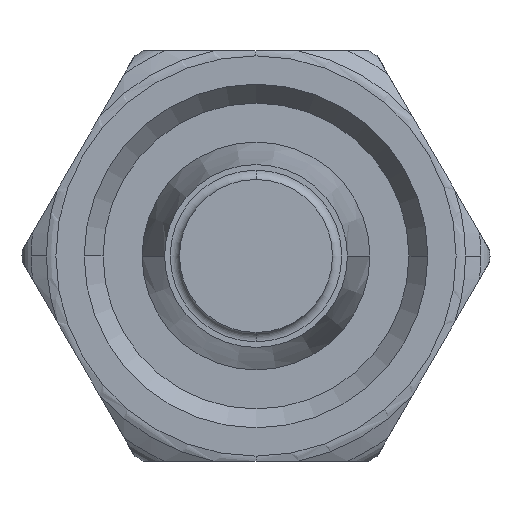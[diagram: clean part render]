
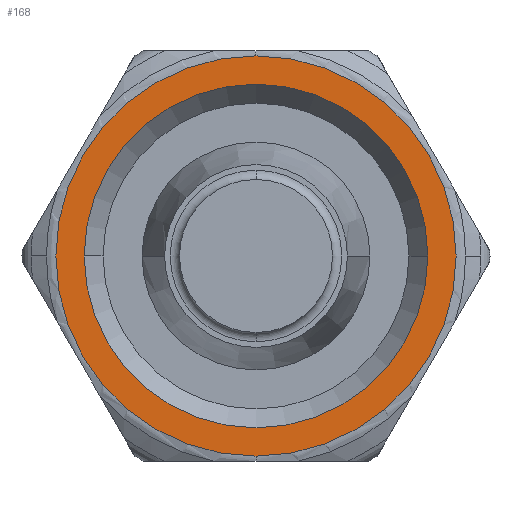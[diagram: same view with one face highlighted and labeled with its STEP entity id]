
A CAD part, front view. The second image highlights one B-rep face of the part: STEP entity #168.
In plain terms, the highlighted planar face has unit normal (0, -1, 0).
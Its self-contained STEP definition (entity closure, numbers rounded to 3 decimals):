
#168 = ADVANCED_FACE( '', ( #388, #389 ), #390, .T. );
#388 = FACE_OUTER_BOUND( '', #646, .T. );
#389 = FACE_BOUND( '', #647, .T. );
#390 = PLANE( '', #648 );
#646 = EDGE_LOOP( '', ( #1484, #1485, #1486 ) );
#647 = EDGE_LOOP( '', ( #1487, #1488 ) );
#648 = AXIS2_PLACEMENT_3D( '', #1489, #1490, #1491 );
#1484 = ORIENTED_EDGE( '', *, *, #1836, .F. );
#1485 = ORIENTED_EDGE( '', *, *, #1835, .F. );
#1486 = ORIENTED_EDGE( '', *, *, #2009, .F. );
#1487 = ORIENTED_EDGE( '', *, *, #2018, .T. );
#1488 = ORIENTED_EDGE( '', *, *, #1815, .T. );
#1489 = CARTESIAN_POINT( '', ( 9.974, 43.3, 0. ) );
#1490 = DIRECTION( '', ( 0., -1., 0. ) );
#1491 = DIRECTION( '', ( -1., 0., 0. ) );
#1815 = EDGE_CURVE( '', #2212, #2209, #2213, .T. );
#1835 = EDGE_CURVE( '', #2247, #2250, #2251, .T. );
#1836 = EDGE_CURVE( '', #2250, #2252, #2253, .T. );
#2009 = EDGE_CURVE( '', #2252, #2247, #2534, .T. );
#2018 = EDGE_CURVE( '', #2209, #2212, #2544, .T. );
#2209 = VERTEX_POINT( '', #2813 );
#2212 = VERTEX_POINT( '', #2817 );
#2213 = CIRCLE( '', #2818, 9.216 );
#2247 = VERTEX_POINT( '', #2859 );
#2250 = VERTEX_POINT( '', #2862 );
#2251 = CIRCLE( '', #2863, 10.732 );
#2252 = VERTEX_POINT( '', #2864 );
#2253 = CIRCLE( '', #2865, 10.732 );
#2534 = CIRCLE( '', #4069, 10.732 );
#2544 = CIRCLE( '', #4079, 9.216 );
#2813 = CARTESIAN_POINT( '', ( 9.216, 43.3, 0. ) );
#2817 = CARTESIAN_POINT( '', ( -9.216, 43.3, 0. ) );
#2818 = AXIS2_PLACEMENT_3D( '', #4293, #4294, #4295 );
#2859 = CARTESIAN_POINT( '', ( 0., 43.3, 10.732 ) );
#2862 = CARTESIAN_POINT( '', ( 10.732, 43.3, 0. ) );
#2863 = AXIS2_PLACEMENT_3D( '', #4339, #4340, #4341 );
#2864 = CARTESIAN_POINT( '', ( 0., 43.3, -10.732 ) );
#2865 = AXIS2_PLACEMENT_3D( '', #4342, #4343, #4344 );
#4069 = AXIS2_PLACEMENT_3D( '', #4578, #4579, #4580 );
#4079 = AXIS2_PLACEMENT_3D( '', #4605, #4606, #4607 );
#4293 = CARTESIAN_POINT( '', ( 0., 43.3, 0. ) );
#4294 = DIRECTION( '', ( 0., 1., 0. ) );
#4295 = DIRECTION( '', ( 1., 0., 0. ) );
#4339 = CARTESIAN_POINT( '', ( 0., 43.3, 0. ) );
#4340 = DIRECTION( '', ( 0., 1., 0. ) );
#4341 = DIRECTION( '', ( 1., 0., 0. ) );
#4342 = CARTESIAN_POINT( '', ( 0., 43.3, 0. ) );
#4343 = DIRECTION( '', ( 0., 1., 0. ) );
#4344 = DIRECTION( '', ( 1., 0., 0. ) );
#4578 = CARTESIAN_POINT( '', ( 0., 43.3, 0. ) );
#4579 = DIRECTION( '', ( 0., 1., 0. ) );
#4580 = DIRECTION( '', ( 1., 0., 0. ) );
#4605 = CARTESIAN_POINT( '', ( 0., 43.3, 0. ) );
#4606 = DIRECTION( '', ( 0., 1., 0. ) );
#4607 = DIRECTION( '', ( 1., 0., 0. ) );
